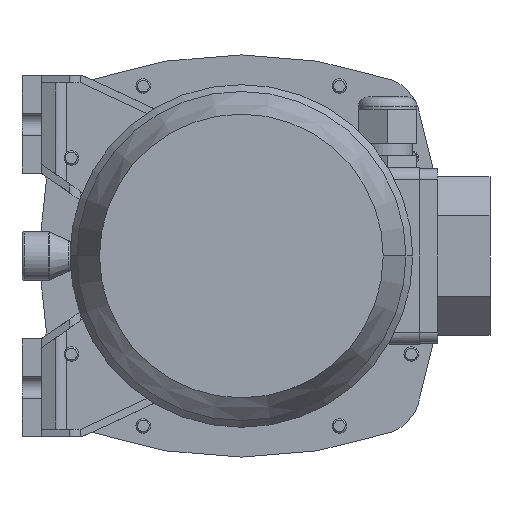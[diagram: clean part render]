
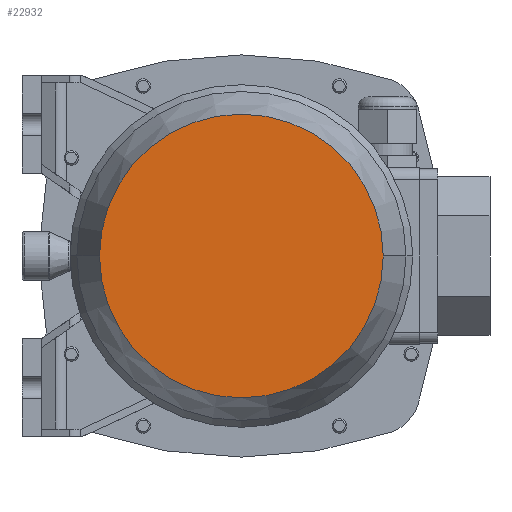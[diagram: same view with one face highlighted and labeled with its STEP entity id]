
A CAD part, front view. The second image highlights one B-rep face of the part: STEP entity #22932.
In plain terms, the highlighted planar face has unit normal (0, -1, 0) as drawn and (1, 0, 0) by its records, which use the part's own axes.
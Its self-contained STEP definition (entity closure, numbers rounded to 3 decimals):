
#16279=CARTESIAN_POINT('',(181.,0.,0.));
#16280=DIRECTION('',(-1.,0.,0.));
#16281=DIRECTION('',(0.,1.,0.));
#16282=AXIS2_PLACEMENT_3D('',#16279,#16280,#16281);
#16287=CARTESIAN_POINT('',(181.,0.,0.));
#16288=DIRECTION('',(1.,0.,0.));
#16289=DIRECTION('',(0.,1.,0.));
#16290=AXIS2_PLACEMENT_3D('',#16287,#16288,#16289);
#18261=CARTESIAN_POINT('',(181.,58.207,0.));
#18263=VERTEX_POINT('',#18261);
#18271=CARTESIAN_POINT('',(181.,-58.207,0.));
#18273=VERTEX_POINT('',#18271);
#22923=CARTESIAN_POINT('',(181.,0.,0.));
#22924=DIRECTION('',(1.,0.,0.));
#22925=DIRECTION('',(0.,-1.,0.));
#22926=AXIS2_PLACEMENT_3D('',#22923,#22924,#22925);
#22927=PLANE('',#22926);
#22928=ORIENTED_EDGE('',*,*,#22905,.T.);
#22929=ORIENTED_EDGE('',*,*,#22916,.F.);
#22930=EDGE_LOOP('',(#22928,#22929));
#22931=FACE_OUTER_BOUND('',#22930,.F.);
#16283=CIRCLE('',#16282,58.207);
#16291=CIRCLE('',#16290,58.207);
#22905=EDGE_CURVE('',#18263,#18273,#16283,.T.);
#22916=EDGE_CURVE('',#18263,#18273,#16291,.T.);
#22932=ADVANCED_FACE('',(#22931),#22927,.T.);
